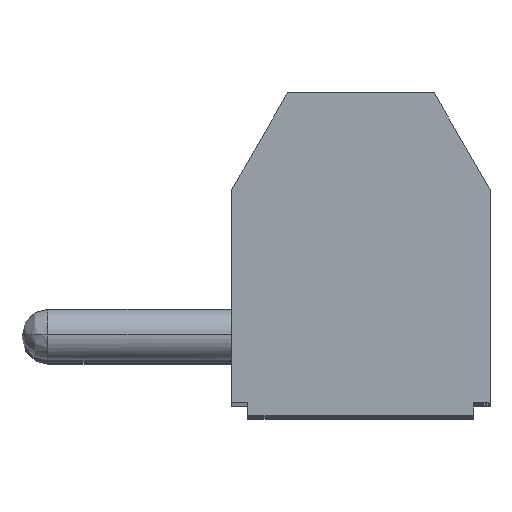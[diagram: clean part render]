
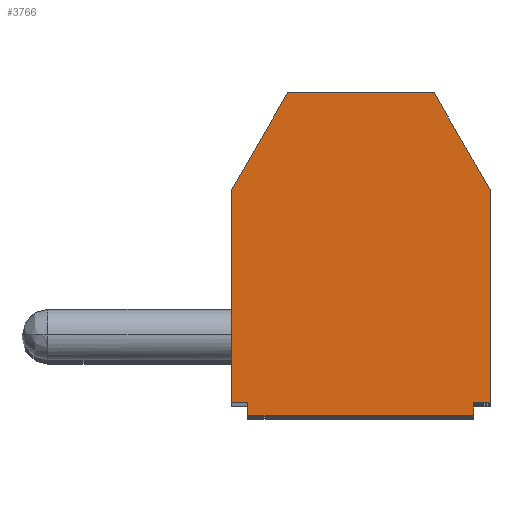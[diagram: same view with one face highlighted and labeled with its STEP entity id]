
A CAD part, top view. The second image highlights one B-rep face of the part: STEP entity #3766.
In plain terms, the highlighted planar face has unit normal (0, 0, 1).
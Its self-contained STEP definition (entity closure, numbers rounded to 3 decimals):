
#2585 = VERTEX_POINT ( 'NONE', #12749 ) ;
#2587 = EDGE_CURVE ( 'NONE', #2588, #2585, #12748, .T. ) ;
#2588 = VERTEX_POINT ( 'NONE', #12744 ) ;
#3058 = EDGE_CURVE ( 'NONE', #3074, #3059, #13553, .T. ) ;
#3059 = VERTEX_POINT ( 'NONE', #13549 ) ;
#3074 = VERTEX_POINT ( 'NONE', #13594 ) ;
#3076 = EDGE_CURVE ( 'NONE', #2585, #3074, #13593, .T. ) ;
#3104 = EDGE_CURVE ( 'NONE', #3132, #3125, #13617, .T. ) ;
#3125 = VERTEX_POINT ( 'NONE', #13669 ) ;
#3132 = VERTEX_POINT ( 'NONE', #13658 ) ;
#3134 = EDGE_CURVE ( 'NONE', #3059, #3132, #13657, .T. ) ;
#3278 = VERTEX_POINT ( 'NONE', #13764 ) ;
#3281 = EDGE_CURVE ( 'NONE', #3125, #3278, #13762, .T. ) ;
#3380 = VERTEX_POINT ( 'NONE', #13754 ) ;
#3383 = EDGE_CURVE ( 'NONE', #3278, #3380, #13752, .T. ) ;
#3568 = VERTEX_POINT ( 'NONE', #14006 ) ;
#3571 = EDGE_CURVE ( 'NONE', #3380, #3568, #14003, .T. ) ;
#3653 = EDGE_CURVE ( 'NONE', #3654, #2588, #13981, .T. ) ;
#3654 = VERTEX_POINT ( 'NONE', #14042 ) ;
#3682 = ORIENTED_EDGE ( 'NONE', *, *, #3383, .T. ) ;
#3683 = ORIENTED_EDGE ( 'NONE', *, *, #3571, .T. ) ;
#3684 = ORIENTED_EDGE ( 'NONE', *, *, #3685, .F. ) ;
#3685 = EDGE_CURVE ( 'NONE', #3654, #3568, #14037, .T. ) ;
#3686 = ORIENTED_EDGE ( 'NONE', *, *, #3653, .T. ) ;
#3687 = ORIENTED_EDGE ( 'NONE', *, *, #2587, .T. ) ;
#3688 = ORIENTED_EDGE ( 'NONE', *, *, #3076, .T. ) ;
#3689 = ORIENTED_EDGE ( 'NONE', *, *, #3058, .T. ) ;
#3754 = ORIENTED_EDGE ( 'NONE', *, *, #3134, .T. ) ;
#3755 = ORIENTED_EDGE ( 'NONE', *, *, #3104, .T. ) ;
#3766 = ADVANCED_FACE ( 'NONE', ( #14049 ), #14044, .T. ) ;
#3767 = EDGE_LOOP ( 'NONE', ( #3768, #3682, #3683, #3684, #3686, #3687, #3688, #3689, #3754, #3755 ) ) ;
#3768 = ORIENTED_EDGE ( 'NONE', *, *, #3281, .T. ) ;
#12744 = CARTESIAN_POINT ( 'NONE',  ( -3.062, -2.845, 0. ) ) ;
#12745 = DIRECTION ( 'NONE',  ( 0., -1., 0. ) ) ;
#12746 = VECTOR ( 'NONE', #12745, 1000. ) ;
#12747 = CARTESIAN_POINT ( 'NONE',  ( -3.062, -3.045, 0. ) ) ;
#12748 = LINE ( 'NONE', #12747, #12746 ) ;
#12749 = CARTESIAN_POINT ( 'NONE',  ( -3.062, -3.245, 0. ) ) ;
#13549 = CARTESIAN_POINT ( 'NONE',  ( 3.938, -2.845, 0. ) ) ;
#13550 = DIRECTION ( 'NONE',  ( 0., 1., 0. ) ) ;
#13551 = VECTOR ( 'NONE', #13550, 1000. ) ;
#13552 = CARTESIAN_POINT ( 'NONE',  ( 3.938, 1.755, 0. ) ) ;
#13553 = LINE ( 'NONE', #13552, #13551 ) ;
#13590 = DIRECTION ( 'NONE',  ( 1., 0., 0. ) ) ;
#13591 = VECTOR ( 'NONE', #13590, 1000. ) ;
#13592 = CARTESIAN_POINT ( 'NONE',  ( 0.438, -3.245, 0. ) ) ;
#13593 = LINE ( 'NONE', #13592, #13591 ) ;
#13594 = CARTESIAN_POINT ( 'NONE',  ( 3.938, -3.245, 0. ) ) ;
#13614 = DIRECTION ( 'NONE',  ( 0., 1., 0. ) ) ;
#13615 = VECTOR ( 'NONE', #13614, 1000. ) ;
#13616 = CARTESIAN_POINT ( 'NONE',  ( 4.438, -3.245, 0. ) ) ;
#13617 = LINE ( 'NONE', #13616, #13615 ) ;
#13654 = DIRECTION ( 'NONE',  ( 1., 0., 0. ) ) ;
#13655 = VECTOR ( 'NONE', #13654, 1000. ) ;
#13656 = CARTESIAN_POINT ( 'NONE',  ( 0.438, -2.845, 0. ) ) ;
#13657 = LINE ( 'NONE', #13656, #13655 ) ;
#13658 = CARTESIAN_POINT ( 'NONE',  ( 4.438, -2.845, 0. ) ) ;
#13669 = CARTESIAN_POINT ( 'NONE',  ( 4.438, 3.755, 0. ) ) ;
#13749 = DIRECTION ( 'NONE',  ( -1., 0., 0. ) ) ;
#13750 = VECTOR ( 'NONE', #13749, 1000. ) ;
#13751 = CARTESIAN_POINT ( 'NONE',  ( -3.562, 6.755, 0. ) ) ;
#13752 = LINE ( 'NONE', #13751, #13750 ) ;
#13754 = CARTESIAN_POINT ( 'NONE',  ( -1.83, 6.755, 0. ) ) ;
#13759 = DIRECTION ( 'NONE',  ( -0.5, 0.866, 0. ) ) ;
#13760 = VECTOR ( 'NONE', #13759, 1000. ) ;
#13761 = CARTESIAN_POINT ( 'NONE',  ( 4.438, 3.755, 0. ) ) ;
#13762 = LINE ( 'NONE', #13761, #13760 ) ;
#13764 = CARTESIAN_POINT ( 'NONE',  ( 2.706, 6.755, 0. ) ) ;
#13978 = DIRECTION ( 'NONE',  ( 1., 0., 0. ) ) ;
#13979 = VECTOR ( 'NONE', #13978, 1000. ) ;
#13980 = CARTESIAN_POINT ( 'NONE',  ( -3.562, -2.845, 0. ) ) ;
#13981 = LINE ( 'NONE', #13980, #13979 ) ;
#14000 = DIRECTION ( 'NONE',  ( -0.5, -0.866, 0. ) ) ;
#14001 = VECTOR ( 'NONE', #14000, 1000. ) ;
#14002 = CARTESIAN_POINT ( 'NONE',  ( -1.83, 6.755, 0. ) ) ;
#14003 = LINE ( 'NONE', #14002, #14001 ) ;
#14006 = CARTESIAN_POINT ( 'NONE',  ( -3.562, 3.755, 0. ) ) ;
#14034 = DIRECTION ( 'NONE',  ( 0., 1., 0. ) ) ;
#14035 = VECTOR ( 'NONE', #14034, 1000. ) ;
#14036 = CARTESIAN_POINT ( 'NONE',  ( -3.562, 0.455, 0. ) ) ;
#14037 = LINE ( 'NONE', #14036, #14035 ) ;
#14042 = CARTESIAN_POINT ( 'NONE',  ( -3.562, -2.845, 0. ) ) ;
#14043 = AXIS2_PLACEMENT_3D ( 'NONE', #14109, #14108, #14107 ) ;
#14044 = PLANE ( 'NONE',  #14043 ) ;
#14049 = FACE_OUTER_BOUND ( 'NONE', #3767, .T. ) ;
#14107 = DIRECTION ( 'NONE',  ( 1., 0., 0. ) ) ;
#14108 = DIRECTION ( 'NONE',  ( 0., 0., 1. ) ) ;
#14109 = CARTESIAN_POINT ( 'NONE',  ( -3.562, -3.245, 0. ) ) ;
